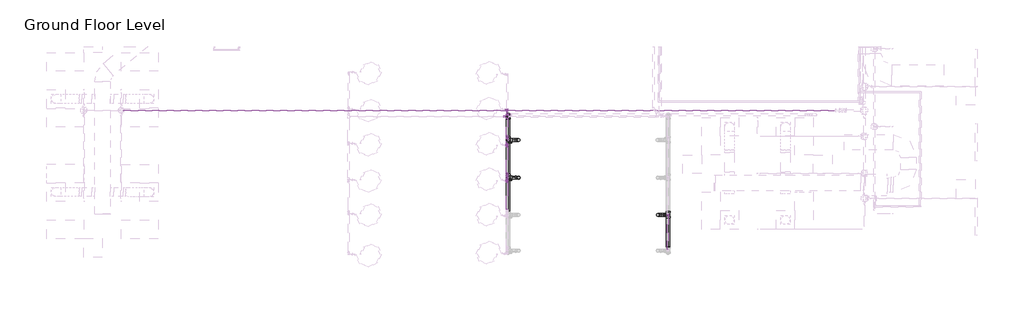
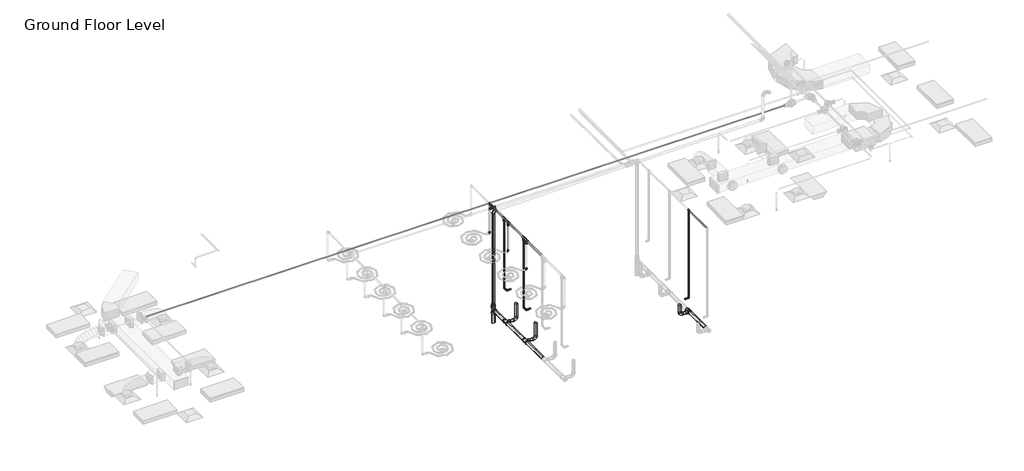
# One storey, part 5 of 74: 33 pipe segments, 30 pipe fittings.
"""IFC4 building model written with IfcOpenShell, lengths in millimetres."""

from ifc_helpers import new_model, si_unit, point, frame, frame_2d, origin, place, context, project, spatial, circle_curve, trimmed, segment, composite_curve, outline, extrude, transform, mapped, element, save
from components import m_bend_pvc_sch_40_dwv_standard_a4b99d37, m_bend_pvc_sch_40_dwv_standard_0eeb11e1, m_reducer_pvc_sch_40_dwv_standard_9996614f, m_tee_reducing_sanitary_pvc_sch_40_dwv_standard_b49161a9, m_tee_reducing_sanitary_pvc_sch_40_dwv_standard_749dcb00, standard_517a5a8d, standard_72b35c3b, standard_bbae78af, standard_a995ec02, standard_96815b99, standard_f060d3e4, standard_6bd4b727, standard_8b9c3306, standard_77f9104c, standard_50f01f79

model = new_model("IFC4")

# Units and contexts
model_context = context("Model", 3, world=origin())
ifc_project = project(units=[si_unit("LENGTHUNIT", "METRE", prefix="MILLI")], contexts=[model_context])

# Site, building, storey
site = spatial("IfcSite", under=ifc_project)
building = spatial("IfcBuilding", under=site)
storey = spatial("IfcBuildingStorey", under=building, Name="Ground Floor Level", Elevation=900.0)

# Pipe fittings
placement = place(None, origin())
m_bend_pvc_sch_40_dwv_standard_shape = m_bend_pvc_sch_40_dwv_standard_a4b99d37(model_context)
element("IfcPipeFitting", 1, ObjectType="M_Bend - PVC - Sch 40 - DWV : Standard", at=placement, inside=storey, context=model_context, shape_type="MappedRepresentation", body=[
    mapped(m_bend_pvc_sch_40_dwv_standard_shape, transform((-968.6302333, -39402.8025066, 463.1166236), x_axis=(0.0, 0.0, -1.0), y_axis=(1.0, 0.0, 0.0), z_axis=(0.0, -1.0, 0.0))),
])
element("IfcPipeFitting", 2, ObjectType="M_Bend - PVC - Sch 40 - DWV : Standard", at=placement, inside=storey, context=model_context, shape_type="MappedRepresentation", body=[
    mapped(m_bend_pvc_sch_40_dwv_standard_shape, transform((-5437.0260633, -38202.7929166, 403.2348266), x_axis=(0.0, 0.0, -1.0), y_axis=(-1.0, 0.0, 0.0), z_axis=(0.0, 1.0, 0.0))),
])
element("IfcPipeFitting", 3, ObjectType="M_Bend - PVC - Sch 40 - DWV : Standard", at=placement, inside=storey, context=model_context, shape_type="MappedRepresentation", body=[
    mapped(m_bend_pvc_sch_40_dwv_standard_shape, transform((-5437.0260633, -36991.6976494, 391.1238739), x_axis=(0.0, 0.0, -1.0), y_axis=(-1.0, 0.0, 0.0), z_axis=(0.0, 1.0, 0.0))),
])
m_bend_pvc_sch_40_dwv_standard_2_shape = m_bend_pvc_sch_40_dwv_standard_0eeb11e1(model_context)
element("IfcPipeFitting", 4, ObjectType="M_Bend - PVC - Sch 40 - DWV : Standard", at=placement, inside=storey, context=model_context, shape_type="MappedRepresentation", body=[
    mapped(m_bend_pvc_sch_40_dwv_standard_2_shape, transform((-5783.0674798, -36176.1401483, 4112.6152603), x_axis=(0.0, 0.0, 1.0), y_axis=(1.0, 0.0, 0.0), z_axis=(0.0, 1.0, 0.0))),
])
m_reducer_pvc_sch_40_dwv_standard_shape = m_reducer_pvc_sch_40_dwv_standard_9996614f(model_context)
element("IfcPipeFitting", 5, ObjectType="M_Reducer - PVC - Sch 40 - DWV : Standard", at=placement, inside=storey, context=model_context, shape_type="MappedRepresentation", body=[
    mapped(m_reducer_pvc_sch_40_dwv_standard_shape, transform((-5783.0674798, -36176.1401483, 505.0), x_axis=(0.0, 0.0, 1.0), y_axis=(0.0, 1.0, 0.0), z_axis=(-1.0, 0.0, 0.0))),
])
m_tee_reducing_sanitary_pvc_sch_40_dwv_standard_shape = m_tee_reducing_sanitary_pvc_sch_40_dwv_standard_b49161a9(model_context)
element("IfcPipeFitting", 6, ObjectType="M_Tee Reducing Sanitary - PVC - Sch 40 - DWV : Standard", at=placement, inside=storey, context=model_context, shape_type="MappedRepresentation", body=[
    mapped(m_tee_reducing_sanitary_pvc_sch_40_dwv_standard_shape, transform((-633.5600391, -39402.8010068, 463.2666086), x_axis=(0.0, -0.9999500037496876, 0.009999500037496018), y_axis=(1.0, 0.0, 0.0), z_axis=(0.0, 0.009999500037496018, 0.9999500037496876))),
])
element("IfcPipeFitting", 7, ObjectType="M_Tee Reducing Sanitary - PVC - Sch 40 - DWV : Standard", at=placement, inside=storey, context=model_context, shape_type="MappedRepresentation", body=[
    mapped(m_tee_reducing_sanitary_pvc_sch_40_dwv_standard_shape, transform((-5783.0674798, -38202.7914168, 403.3848116), x_axis=(0.0, -0.9999500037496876, 0.009999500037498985), y_axis=(-1.0000000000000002, 0.0, 0.0), z_axis=(0.0, -0.009999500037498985, -0.9999500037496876))),
])
element("IfcPipeFitting", 8, ObjectType="M_Tee Reducing Sanitary - PVC - Sch 40 - DWV : Standard", at=placement, inside=storey, context=model_context, shape_type="MappedRepresentation", body=[
    mapped(m_tee_reducing_sanitary_pvc_sch_40_dwv_standard_shape, transform((-5783.0674798, -36991.6961495, 391.2738589), x_axis=(0.0, -0.9999500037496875, 0.009999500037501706), y_axis=(-1.0, 0.0, 0.0), z_axis=(0.0, -0.009999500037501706, -0.9999500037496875))),
])
m_tee_reducing_sanitary_pvc_sch_40_dwv_standard_2_shape = m_tee_reducing_sanitary_pvc_sch_40_dwv_standard_749dcb00(model_context)
element("IfcPipeFitting", 9, ObjectType="M_Tee Reducing Sanitary - PVC - Sch 40 - DWV : Standard", at=placement, inside=storey, context=model_context, shape_type="MappedRepresentation", body=[
    mapped(m_tee_reducing_sanitary_pvc_sch_40_dwv_standard_2_shape, transform((-5783.0674798, -36176.1401483, 383.1182989), x_axis=(0.0, 0.0, 1.0), y_axis=(0.0, 1.0, 0.0), z_axis=(-1.0, 0.0, 0.0))),
])
standard_shape = standard_517a5a8d(model_context)
element("IfcPipeFitting", 10, ObjectType="M_Elbow - CPVC - Sch 40 : Standard", at=placement, inside=storey, context=model_context, shape_type="MappedRepresentation", body=[
    mapped(standard_shape, transform((-5815.4900472, -36012.7835466, 3200.0), x_axis=(0.0, 0.0, -1.0), y_axis=(-1.0, 0.0, 0.0), z_axis=(0.0, 1.0, 0.0))),
])
element("IfcPipeFitting", 11, ObjectType="M_Elbow - CPVC - Sch 40 : Standard", at=placement, inside=storey, context=model_context, shape_type="MappedRepresentation", body=[
    mapped(standard_shape, transform((-5815.4900472, -37152.7833366, 3200.0), x_axis=(1.0, 0.0, 0.0), y_axis=(0.0, 0.0, 1.0), z_axis=(0.0, -1.0, 0.0))),
])
element("IfcPipeFitting", 12, ObjectType="M_Elbow - CPVC - Sch 40 : Standard", at=placement, inside=storey, context=model_context, shape_type="MappedRepresentation", body=[
    mapped(standard_shape, transform((-5815.4900472, -38292.7833266, 3200.0), x_axis=(1.0, 0.0, 0.0), y_axis=(0.0, 0.0, 1.0), z_axis=(0.0, -1.0, 0.0))),
])
element("IfcPipeFitting", 13, ObjectType="M_Elbow - CPVC - Sch 40 : Standard", at=placement, inside=storey, context=model_context, shape_type="MappedRepresentation", body=[
    mapped(standard_shape, transform((-5815.4900472, -37065.1364156, 1655.0), x_axis=(0.0, -1.0, 0.0), y_axis=(1.0, 0.0, 0.0), z_axis=(0.0, 0.0, 1.0))),
])
element("IfcPipeFitting", 14, ObjectType="M_Elbow - CPVC - Sch 40 : Standard", at=placement, inside=storey, context=model_context, shape_type="MappedRepresentation", body=[
    mapped(standard_shape, transform((-5815.4900472, -36905.1364156, 1655.0), x_axis=(0.0, 1.0, 0.0), y_axis=(0.0, 0.0, 1.0), z_axis=(1.0, 0.0, 0.0))),
])
element("IfcPipeFitting", 15, ObjectType="M_Elbow - CPVC - Sch 40 : Standard", at=placement, inside=storey, context=model_context, shape_type="MappedRepresentation", body=[
    mapped(standard_shape, transform((-5815.4900472, -38116.2334627, 1655.0), x_axis=(0.0, 1.0, 0.0), y_axis=(0.0, 0.0, 1.0), z_axis=(1.0, 0.0, 0.0))),
])
standard_2_shape = standard_72b35c3b(model_context)
element("IfcPipeFitting", 16, ObjectType="M_Tee - CPVC - Sch 40 : Standard", at=placement, inside=storey, context=model_context, shape_type="MappedRepresentation", body=[
    mapped(standard_2_shape, transform((-639.6485359, -39402.8025066, 4300.0), x_axis=(0.0, -1.0, 0.0), y_axis=(0.0, 0.0, 1.0), z_axis=(-1.0, 0.0, 0.0))),
])
element("IfcPipeFitting", 17, ObjectType="M_Tee - CPVC - Sch 40 : Standard", at=placement, inside=storey, context=model_context, shape_type="MappedRepresentation", body=[
    mapped(standard_2_shape, transform((-5815.4900472, -36012.7835466, 4300.0), x_axis=(0.0, 1.0, 0.0), y_axis=(0.0, 0.0, 1.0), z_axis=(1.0, 0.0, 0.0))),
])
standard_3_shape = standard_bbae78af(model_context)
element("IfcPipeFitting", 18, ObjectType="M_Tee - CPVC - Sch 40 : Standard", at=placement, inside=storey, context=model_context, shape_type="MappedRepresentation", body=[
    mapped(standard_3_shape, transform((-5815.4900472, -37152.7833366, 4300.0), x_axis=(0.0, 1.0, 0.0), y_axis=(0.0, 0.0, 1.0), z_axis=(1.0, 0.0, 0.0))),
])
element("IfcPipeFitting", 19, ObjectType="M_Tee - CPVC - Sch 40 : Standard", at=placement, inside=storey, context=model_context, shape_type="MappedRepresentation", body=[
    mapped(standard_3_shape, transform((-5815.4900472, -38292.7833266, 4300.0), x_axis=(0.0, 1.0, 0.0), y_axis=(0.0, 0.0, 1.0), z_axis=(1.0, 0.0, 0.0))),
])
element("IfcPipeFitting", 20, ObjectType="M_Tee - CPVC - Sch 40 : Standard", at=placement, inside=storey, context=model_context, shape_type="MappedRepresentation", body=[
    mapped(standard_3_shape, transform((-5815.4900472, -36905.1364156, 4300.0), x_axis=(0.0, 1.0, 0.0), y_axis=(0.0, 0.0, 1.0), z_axis=(1.0, 0.0, 0.0))),
])
element("IfcPipeFitting", 21, ObjectType="M_Tee - CPVC - Sch 40 : Standard", at=placement, inside=storey, context=model_context, shape_type="MappedRepresentation", body=[
    mapped(standard_3_shape, transform((-5815.4900472, -38116.2334627, 4300.0), x_axis=(0.0, 1.0, 0.0), y_axis=(0.0, 0.0, 1.0), z_axis=(1.0, 0.0, 0.0))),
])
standard_4_shape = standard_a995ec02(model_context)
element("IfcPipeFitting", 22, ObjectType="M_Coupling Reducing - CPVC - Sch 40 : Standard", at=placement, inside=storey, context=model_context, shape_type="MappedRepresentation", body=[
    mapped(standard_4_shape, transform((-5877.4152472, -36234.6855451, 4300.0), x_axis=(-1.0, 0.0, 0.0), y_axis=(0.0, -1.0, 0.0), z_axis=(0.0, 0.0, 1.0))),
])
standard_5_shape = standard_96815b99(model_context)
element("IfcPipeFitting", 23, ObjectType="M_Elbow - CPVC - Sch 40 : Standard", at=placement, inside=storey, context=model_context, shape_type="MappedRepresentation", body=[
    mapped(standard_5_shape, transform((-639.6485359, -39402.8025066, 983.4999978), x_axis=(0.0, 0.0, -1.0), y_axis=(-1.0, 0.0, 0.0), z_axis=(0.0, 1.0, 0.0))),
])
standard_6_shape = standard_f060d3e4(model_context)
element("IfcPipeFitting", 24, ObjectType="M_Cross - CPVC - Sch 40 : Standard", at=placement, inside=storey, context=model_context, shape_type="MappedRepresentation", body=[
    mapped(standard_6_shape, transform((-5815.4900472, -36234.6855451, 4300.0), x_axis=(1.0, 0.0, 0.0), y_axis=(0.0, 1.0, 0.0), z_axis=(0.0, 0.0, 1.0))),
])
standard_7_shape = standard_6bd4b727(model_context)
element("IfcPipeFitting", 25, ObjectType="M_Coupling Reducing - CPVC - Sch 40 : Standard", at=placement, inside=storey, context=model_context, shape_type="MappedRepresentation", body=[
    mapped(standard_7_shape, transform((-5815.4900472, -36100.5614701, 4300.0), x_axis=(0.0, -1.0, 0.0), y_axis=(1.0, 0.0, 0.0), z_axis=(0.0, 0.0, 1.0))),
])
standard_8_shape = standard_8b9c3306(model_context)
element("IfcPipeFitting", 26, ObjectType="M_Coupling Reducing - CPVC - Sch 40 : Standard", at=placement, inside=storey, context=model_context, shape_type="MappedRepresentation", body=[
    mapped(standard_8_shape, transform((-5815.4900472, -37152.7833366, 4241.2498), x_axis=(0.0, 0.0, -1.0), y_axis=(-1.0, 0.0, 0.0), z_axis=(0.0, 1.0, 0.0))),
])
element("IfcPipeFitting", 27, ObjectType="M_Coupling Reducing - CPVC - Sch 40 : Standard", at=placement, inside=storey, context=model_context, shape_type="MappedRepresentation", body=[
    mapped(standard_8_shape, transform((-5815.4900472, -38292.7833266, 4241.2498), x_axis=(0.0, 0.0, -1.0), y_axis=(-1.0, 0.0, 0.0), z_axis=(0.0, 1.0, 0.0))),
])
standard_9_shape = standard_77f9104c(model_context)
element("IfcPipeFitting", 28, ObjectType="M_Coupling Reducing - CPVC - Sch 40 : Standard", at=placement, inside=storey, context=model_context, shape_type="MappedRepresentation", body=[
    mapped(standard_9_shape, transform((-5815.4900472, -36905.1364156, 4241.2498), x_axis=(0.0, 0.0, -1.0), y_axis=(0.0, -1.0, 0.0), z_axis=(-1.0, 0.0, 0.0))),
])
element("IfcPipeFitting", 29, ObjectType="M_Coupling Reducing - CPVC - Sch 40 : Standard", at=placement, inside=storey, context=model_context, shape_type="MappedRepresentation", body=[
    mapped(standard_9_shape, transform((-5815.4900472, -38116.2334627, 4241.2498), x_axis=(0.0, 0.0, -1.0), y_axis=(0.0, -1.0, 0.0), z_axis=(-1.0, 0.0, 0.0))),
])
standard_10_shape = standard_50f01f79(model_context)
element("IfcPipeFitting", 30, ObjectType="M_Elbow - CPVC - Sch 40 : Standard", at=placement, inside=storey, context=model_context, shape_type="MappedRepresentation", body=[
    mapped(standard_10_shape, transform((-5815.4900472, -38276.2334627, 1655.0), x_axis=(0.0, -1.0, 0.0), y_axis=(1.0, 0.0, 0.0), z_axis=(0.0, 0.0, 1.0))),
])

# Pipe segments
element("IfcPipeSegment", 31, ObjectType="CPVC", at=placement, inside=storey, context=model_context, shape_type="SweptSolid", body=[
    extrude(outline(composite_curve([segment(trimmed(circle_curve(frame_2d((4300.0, -639.6485359)), 16.7005), [point((4300.0, -656.3490359))], [point((4283.2995, -639.6485359))], False, "CARTESIAN"), True, "CONTINUOUS"), segment(trimmed(circle_curve(frame_2d((4300.0, -639.6485359)), 16.7005), [point((4283.2995, -639.6485359))], [point((4300.0, -622.9480359))], False, "CARTESIAN"), True, "CONTINUOUS"), segment(trimmed(circle_curve(frame_2d((4300.0, -639.6485359)), 16.7005), [point((4300.0, -622.9480359))], [point((4316.7005, -639.6485359))], False, "CARTESIAN"), True, "CONTINUOUS"), segment(trimmed(circle_curve(frame_2d((4300.0, -639.6485359)), 16.7005), [point((4316.7005, -639.6485359))], [point((4300.0, -656.3490359))], False, "CARTESIAN"), True, "CONTINUOUS")], self_intersect=False)), frame((0.0, -40511.5220966, 0.0), z_axis=(0.0, 1.0, 0.0), x_axis=(0.0, 0.0, 1.0)), (0.0, 0.0, 1.0), 1069.01939),
])
element("IfcPipeSegment", 32, ObjectType="CPVC", at=placement, inside=storey, context=model_context, shape_type="SweptSolid", body=[
    extrude(outline(composite_curve([segment(trimmed(circle_curve(frame_2d((-39402.8025066, 983.4999921)), 16.7005), [point((-39386.1020066, 983.4999921))], [point((-39402.8025066, 966.7994921))], False, "CARTESIAN"), True, "CONTINUOUS"), segment(trimmed(circle_curve(frame_2d((-39402.8025066, 983.4999921)), 16.7005), [point((-39402.8025066, 966.7994921))], [point((-39419.5030066, 983.4999921))], False, "CARTESIAN"), True, "CONTINUOUS"), segment(trimmed(circle_curve(frame_2d((-39402.8025066, 983.4999921)), 16.7005), [point((-39419.5030066, 983.4999921))], [point((-39402.8025066, 1000.2004921))], False, "CARTESIAN"), True, "CONTINUOUS"), segment(trimmed(circle_curve(frame_2d((-39402.8025066, 983.4999921)), 16.7005), [point((-39402.8025066, 1000.2004921))], [point((-39386.1020066, 983.4999921))], False, "CARTESIAN"), True, "CONTINUOUS")], self_intersect=False)), frame((-782.4615578, 0.0, 0.0), z_axis=(1.0, 0.0, 0.0), x_axis=(0.0, 1.0, 0.0)), (0.0, 0.0, 1.0), 99.5504746),
])
element("IfcPipeSegment", 33, ObjectType="CPVC", at=placement, inside=storey, context=model_context, shape_type="SweptSolid", body=[
    extrude(outline(composite_curve([segment(trimmed(circle_curve(frame_2d((-639.6485359, -39402.8025066)), 16.7005), [point((-622.9480359, -39402.8025066))], [point((-639.6485359, -39419.5030066))], False, "CARTESIAN"), True, "CONTINUOUS"), segment(trimmed(circle_curve(frame_2d((-639.6485359, -39402.8025066)), 16.7005), [point((-639.6485359, -39419.5030066))], [point((-656.3490359, -39402.8025066))], False, "CARTESIAN"), True, "CONTINUOUS"), segment(trimmed(circle_curve(frame_2d((-639.6485359, -39402.8025066)), 16.7005), [point((-656.3490359, -39402.8025066))], [point((-639.6485359, -39386.1020066))], False, "CARTESIAN"), True, "CONTINUOUS"), segment(trimmed(circle_curve(frame_2d((-639.6485359, -39402.8025066)), 16.7005), [point((-639.6485359, -39386.1020066))], [point((-622.9480359, -39402.8025066))], False, "CARTESIAN"), True, "CONTINUOUS")], self_intersect=False)), frame((0.0, 0.0, 1026.762545), z_axis=(0.0, 0.0, 1.0), x_axis=(1.0, 0.0, 0.0)), (0.0, 0.0, 1.0), 3233.537255),
])
element("IfcPipeSegment", 34, ObjectType="CPVC", at=placement, inside=storey, context=model_context, shape_type="SweptSolid", body=[
    extrude(outline(composite_curve([segment(trimmed(circle_curve(frame_2d((4300.0, -5815.4900472)), 16.7005), [point((4300.0, -5832.1905472))], [point((4283.2995, -5815.4900472))], False, "CARTESIAN"), True, "CONTINUOUS"), segment(trimmed(circle_curve(frame_2d((4300.0, -5815.4900472)), 16.7005), [point((4283.2995, -5815.4900472))], [point((4300.0, -5798.7895472))], False, "CARTESIAN"), True, "CONTINUOUS"), segment(trimmed(circle_curve(frame_2d((4300.0, -5815.4900472)), 16.7005), [point((4300.0, -5798.7895472))], [point((4316.7005, -5815.4900472))], False, "CARTESIAN"), True, "CONTINUOUS"), segment(trimmed(circle_curve(frame_2d((4300.0, -5815.4900472)), 16.7005), [point((4316.7005, -5815.4900472))], [point((4300.0, -5832.1905472))], False, "CARTESIAN"), True, "CONTINUOUS")], self_intersect=False)), frame((0.0, -36100.5614701, 0.0), z_axis=(0.0, 1.0, 0.0), x_axis=(0.0, 0.0, 1.0)), (0.0, 0.0, 1.0), 48.0777235),
])
element("IfcPipeSegment", 35, ObjectType="CPVC", at=placement, inside=storey, context=model_context, shape_type="SweptSolid", body=[
    extrude(outline(composite_curve([segment(trimmed(circle_curve(frame_2d((-36012.7835466, 3200.0)), 16.7005), [point((-35996.0830466, 3200.0))], [point((-36012.7835466, 3183.2995))], False, "CARTESIAN"), True, "CONTINUOUS"), segment(trimmed(circle_curve(frame_2d((-36012.7835466, 3200.0)), 16.7005), [point((-36012.7835466, 3183.2995))], [point((-36029.4840466, 3200.0))], False, "CARTESIAN"), True, "CONTINUOUS"), segment(trimmed(circle_curve(frame_2d((-36012.7835466, 3200.0)), 16.7005), [point((-36029.4840466, 3200.0))], [point((-36012.7835466, 3216.7005))], False, "CARTESIAN"), True, "CONTINUOUS"), segment(trimmed(circle_curve(frame_2d((-36012.7835466, 3200.0)), 16.7005), [point((-36012.7835466, 3216.7005))], [point((-35996.0830466, 3200.0))], False, "CARTESIAN"), True, "CONTINUOUS")], self_intersect=False)), frame((-5868.9493142, 0.0, 0.0), z_axis=(1.0, 0.0, 0.0), x_axis=(0.0, 1.0, 0.0)), (0.0, 0.0, 1.0), 10.1967171),
])
element("IfcPipeSegment", 36, ObjectType="CPVC", at=placement, inside=storey, context=model_context, shape_type="SweptSolid", body=[
    extrude(outline(composite_curve([segment(trimmed(circle_curve(frame_2d((-5815.4900472, -36012.7835466)), 16.7005), [point((-5798.7895472, -36012.7835466))], [point((-5815.4900472, -36029.4840466))], False, "CARTESIAN"), True, "CONTINUOUS"), segment(trimmed(circle_curve(frame_2d((-5815.4900472, -36012.7835466)), 16.7005), [point((-5815.4900472, -36029.4840466))], [point((-5832.1905472, -36012.7835466))], False, "CARTESIAN"), True, "CONTINUOUS"), segment(trimmed(circle_curve(frame_2d((-5815.4900472, -36012.7835466)), 16.7005), [point((-5832.1905472, -36012.7835466))], [point((-5815.4900472, -35996.0830466))], False, "CARTESIAN"), True, "CONTINUOUS"), segment(trimmed(circle_curve(frame_2d((-5815.4900472, -36012.7835466)), 16.7005), [point((-5815.4900472, -35996.0830466))], [point((-5798.7895472, -36012.7835466))], False, "CARTESIAN"), True, "CONTINUOUS")], self_intersect=False)), frame((0.0, 0.0, 3243.26255), z_axis=(0.0, 0.0, 1.0), x_axis=(1.0, 0.0, 0.0)), (0.0, 0.0, 1.0), 1017.03725),
])
element("IfcPipeSegment", 37, ObjectType="CPVC", at=placement, inside=storey, context=model_context, shape_type="SweptSolid", body=[
    extrude(outline(composite_curve([segment(trimmed(circle_curve(frame_2d((-37152.7833366, 3200.0)), 16.7005), [point((-37169.4838366, 3200.0))], [point((-37152.7833366, 3216.7005))], False, "CARTESIAN"), True, "CONTINUOUS"), segment(trimmed(circle_curve(frame_2d((-37152.7833366, 3200.0)), 16.7005), [point((-37152.7833366, 3216.7005))], [point((-37136.0828366, 3200.0))], False, "CARTESIAN"), True, "CONTINUOUS"), segment(trimmed(circle_curve(frame_2d((-37152.7833366, 3200.0)), 16.7005), [point((-37136.0828366, 3200.0))], [point((-37152.7833366, 3183.2995))], False, "CARTESIAN"), True, "CONTINUOUS"), segment(trimmed(circle_curve(frame_2d((-37152.7833366, 3200.0)), 16.7005), [point((-37152.7833366, 3183.2995))], [point((-37169.4838366, 3200.0))], False, "CARTESIAN"), True, "CONTINUOUS")], self_intersect=False)), frame((-5868.9493142, 0.0, 0.0), z_axis=(1.0, 0.0, 0.0), x_axis=(0.0, 1.0, 0.0)), (0.0, 0.0, 1.0), 10.1967171),
])
element("IfcPipeSegment", 38, ObjectType="CPVC", at=placement, inside=storey, context=model_context, shape_type="SweptSolid", body=[
    extrude(outline(composite_curve([segment(trimmed(circle_curve(frame_2d((-5815.4900472, -37152.7833366)), 16.7005), [point((-5832.1905472, -37152.7833366))], [point((-5815.4900472, -37136.0828366))], False, "CARTESIAN"), True, "CONTINUOUS"), segment(trimmed(circle_curve(frame_2d((-5815.4900472, -37152.7833366)), 16.7005), [point((-5815.4900472, -37136.0828366))], [point((-5798.7895472, -37152.7833366))], False, "CARTESIAN"), True, "CONTINUOUS"), segment(trimmed(circle_curve(frame_2d((-5815.4900472, -37152.7833366)), 16.7005), [point((-5798.7895472, -37152.7833366))], [point((-5815.4900472, -37169.4838366))], False, "CARTESIAN"), True, "CONTINUOUS"), segment(trimmed(circle_curve(frame_2d((-5815.4900472, -37152.7833366)), 16.7005), [point((-5815.4900472, -37169.4838366))], [point((-5832.1905472, -37152.7833366))], False, "CARTESIAN"), True, "CONTINUOUS")], self_intersect=False)), frame((0.0, 0.0, 3243.26255), z_axis=(0.0, 0.0, 1.0), x_axis=(1.0, 0.0, 0.0)), (0.0, 0.0, 1.0), 925.788375),
])
element("IfcPipeSegment", 39, ObjectType="CPVC", at=placement, inside=storey, context=model_context, shape_type="SweptSolid", body=[
    extrude(outline(composite_curve([segment(trimmed(circle_curve(frame_2d((4300.0, -5815.4900472)), 24.13), [point((4300.0, -5839.6200472))], [point((4275.87, -5815.4900472))], False, "CARTESIAN"), True, "CONTINUOUS"), segment(trimmed(circle_curve(frame_2d((4300.0, -5815.4900472)), 24.13), [point((4275.87, -5815.4900472))], [point((4300.0, -5791.3600472))], False, "CARTESIAN"), True, "CONTINUOUS"), segment(trimmed(circle_curve(frame_2d((4300.0, -5815.4900472)), 24.13), [point((4300.0, -5791.3600472))], [point((4324.13, -5815.4900472))], False, "CARTESIAN"), True, "CONTINUOUS"), segment(trimmed(circle_curve(frame_2d((4300.0, -5815.4900472)), 24.13), [point((4324.13, -5815.4900472))], [point((4300.0, -5839.6200472))], False, "CARTESIAN"), True, "CONTINUOUS")], self_intersect=False)), frame((0.0, -37094.0331366, 0.0), z_axis=(0.0, 1.0, 0.0), x_axis=(0.0, 0.0, 1.0)), (0.0, 0.0, 1.0), 130.146521),
])
element("IfcPipeSegment", 40, ObjectType="CPVC", at=placement, inside=storey, context=model_context, shape_type="SweptSolid", body=[
    extrude(outline(composite_curve([segment(trimmed(circle_curve(frame_2d((4300.0, -5815.4900472)), 24.13), [point((4300.0, -5839.6200472))], [point((4275.87, -5815.4900472))], False, "CARTESIAN"), True, "CONTINUOUS"), segment(trimmed(circle_curve(frame_2d((4300.0, -5815.4900472)), 24.13), [point((4275.87, -5815.4900472))], [point((4300.0, -5791.3600472))], False, "CARTESIAN"), True, "CONTINUOUS"), segment(trimmed(circle_curve(frame_2d((4300.0, -5815.4900472)), 24.13), [point((4300.0, -5791.3600472))], [point((4324.13, -5815.4900472))], False, "CARTESIAN"), True, "CONTINUOUS"), segment(trimmed(circle_curve(frame_2d((4300.0, -5815.4900472)), 24.13), [point((4324.13, -5815.4900472))], [point((4300.0, -5839.6200472))], False, "CARTESIAN"), True, "CONTINUOUS")], self_intersect=False)), frame((0.0, -38234.0331266, 0.0), z_axis=(0.0, 1.0, 0.0), x_axis=(0.0, 0.0, 1.0)), (0.0, 0.0, 1.0), 59.0494639),
])
element("IfcPipeSegment", 41, ObjectType="CPVC", at=placement, inside=storey, context=model_context, shape_type="SweptSolid", body=[
    extrude(outline(composite_curve([segment(trimmed(circle_curve(frame_2d((-37065.1364156, 1655.0)), 16.7005), [point((-37048.4359156, 1655.0))], [point((-37065.1364156, 1638.2995))], False, "CARTESIAN"), True, "CONTINUOUS"), segment(trimmed(circle_curve(frame_2d((-37065.1364156, 1655.0)), 16.7005), [point((-37065.1364156, 1638.2995))], [point((-37081.8369156, 1655.0))], False, "CARTESIAN"), True, "CONTINUOUS"), segment(trimmed(circle_curve(frame_2d((-37065.1364156, 1655.0)), 16.7005), [point((-37081.8369156, 1655.0))], [point((-37065.1364156, 1671.7005))], False, "CARTESIAN"), True, "CONTINUOUS"), segment(trimmed(circle_curve(frame_2d((-37065.1364156, 1655.0)), 16.7005), [point((-37065.1364156, 1671.7005))], [point((-37048.4359156, 1655.0))], False, "CARTESIAN"), True, "CONTINUOUS")], self_intersect=False)), frame((-5772.2274972, 0.0, 0.0), z_axis=(1.0, 0.0, 0.0), x_axis=(0.0, 1.0, 0.0)), (0.0, 0.0, 1.0), 101.6587367),
])
element("IfcPipeSegment", 42, ObjectType="CPVC", at=placement, inside=storey, context=model_context, shape_type="SweptSolid", body=[
    extrude(outline(composite_curve([segment(trimmed(circle_curve(frame_2d((1655.0, -5815.4900472)), 16.7005), [point((1655.0, -5798.7895472))], [point((1671.7005, -5815.4900472))], False, "CARTESIAN"), True, "CONTINUOUS"), segment(trimmed(circle_curve(frame_2d((1655.0, -5815.4900472)), 16.7005), [point((1671.7005, -5815.4900472))], [point((1655.0, -5832.1905472))], False, "CARTESIAN"), True, "CONTINUOUS"), segment(trimmed(circle_curve(frame_2d((1655.0, -5815.4900472)), 16.7005), [point((1655.0, -5832.1905472))], [point((1638.2995, -5815.4900472))], False, "CARTESIAN"), True, "CONTINUOUS"), segment(trimmed(circle_curve(frame_2d((1655.0, -5815.4900472)), 16.7005), [point((1638.2995, -5815.4900472))], [point((1655.0, -5798.7895472))], False, "CARTESIAN"), True, "CONTINUOUS")], self_intersect=False)), frame((0.0, -37021.8738656, 0.0), z_axis=(0.0, 1.0, 0.0), x_axis=(0.0, 0.0, 1.0)), (0.0, 0.0, 1.0), 73.4749),
])
element("IfcPipeSegment", 43, ObjectType="CPVC", at=placement, inside=storey, context=model_context, shape_type="SweptSolid", body=[
    extrude(outline(composite_curve([segment(trimmed(circle_curve(frame_2d((0.0, 16.7005)), 16.7005), [point((-16.7005, 16.7005))], [point((0.0, 33.401))], False, "CARTESIAN"), True, "CONTINUOUS"), segment(trimmed(circle_curve(frame_2d((0.0, 16.7005)), 16.7005), [point((0.0, 33.401))], [point((16.7005, 16.7005))], False, "CARTESIAN"), True, "CONTINUOUS"), segment(trimmed(circle_curve(frame_2d((0.0, 16.7005)), 16.7005), [point((16.7005, 16.7005))], [point((0.0, 0.0))], False, "CARTESIAN"), True, "CONTINUOUS"), segment(trimmed(circle_curve(frame_2d((0.0, 16.7005)), 16.7005), [point((0.0, 0.0))], [point((-16.7005, 16.7005))], False, "CARTESIAN"), True, "CONTINUOUS")], self_intersect=False)), frame((-5772.2272388, -38276.2329314, 1638.2995), z_axis=(0.9999999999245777, 1.2281885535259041e-05, 0.0), x_axis=(-1.2281885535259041e-05, 0.9999999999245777, 0.0)), (0.0, 0.0, 1.0), 101.6584783),
])
element("IfcPipeSegment", 44, ObjectType="CPVC", at=placement, inside=storey, context=model_context, shape_type="SweptSolid", body=[
    extrude(outline(composite_curve([segment(trimmed(circle_curve(frame_2d((1655.0, -5815.4900472)), 16.7005), [point((1655.0, -5798.7895472))], [point((1671.7005, -5815.4900472))], False, "CARTESIAN"), True, "CONTINUOUS"), segment(trimmed(circle_curve(frame_2d((1655.0, -5815.4900472)), 16.7005), [point((1671.7005, -5815.4900472))], [point((1655.0, -5832.1905472))], False, "CARTESIAN"), True, "CONTINUOUS"), segment(trimmed(circle_curve(frame_2d((1655.0, -5815.4900472)), 16.7005), [point((1655.0, -5832.1905472))], [point((1638.2995, -5815.4900472))], False, "CARTESIAN"), True, "CONTINUOUS"), segment(trimmed(circle_curve(frame_2d((1655.0, -5815.4900472)), 16.7005), [point((1638.2995, -5815.4900472))], [point((1655.0, -5798.7895472))], False, "CARTESIAN"), True, "CONTINUOUS")], self_intersect=False)), frame((0.0, -38232.9706544, 0.0), z_axis=(0.0, 1.0, 0.0), x_axis=(0.0, 0.0, 1.0)), (0.0, 0.0, 1.0), 73.4746416),
])
element("IfcPipeSegment", 45, ObjectType="CPVC", at=placement, inside=storey, context=model_context, shape_type="SweptSolid", body=[
    extrude(outline(composite_curve([segment(trimmed(circle_curve(frame_2d((-5815.4900472, -36905.1364156)), 16.7005), [point((-5798.7895472, -36905.1364156))], [point((-5815.4900472, -36921.8369156))], False, "CARTESIAN"), True, "CONTINUOUS"), segment(trimmed(circle_curve(frame_2d((-5815.4900472, -36905.1364156)), 16.7005), [point((-5815.4900472, -36921.8369156))], [point((-5832.1905472, -36905.1364156))], False, "CARTESIAN"), True, "CONTINUOUS"), segment(trimmed(circle_curve(frame_2d((-5815.4900472, -36905.1364156)), 16.7005), [point((-5832.1905472, -36905.1364156))], [point((-5815.4900472, -36888.4359156))], False, "CARTESIAN"), True, "CONTINUOUS"), segment(trimmed(circle_curve(frame_2d((-5815.4900472, -36905.1364156)), 16.7005), [point((-5815.4900472, -36888.4359156))], [point((-5798.7895472, -36905.1364156))], False, "CARTESIAN"), True, "CONTINUOUS")], self_intersect=False)), frame((0.0, 0.0, 1698.26255), z_axis=(0.0, 0.0, 1.0), x_axis=(1.0, 0.0, 0.0)), (0.0, 0.0, 1.0), 2470.788375),
])
element("IfcPipeSegment", 46, ObjectType="CPVC", at=placement, inside=storey, context=model_context, shape_type="SweptSolid", body=[
    extrude(outline(composite_curve([segment(trimmed(circle_curve(frame_2d((4300.0, -5815.4900472)), 24.13), [point((4300.0, -5839.6200472))], [point((4275.87, -5815.4900472))], False, "CARTESIAN"), True, "CONTINUOUS"), segment(trimmed(circle_curve(frame_2d((4300.0, -5815.4900472)), 24.13), [point((4275.87, -5815.4900472))], [point((4300.0, -5791.3600472))], False, "CARTESIAN"), True, "CONTINUOUS"), segment(trimmed(circle_curve(frame_2d((4300.0, -5815.4900472)), 24.13), [point((4300.0, -5791.3600472))], [point((4324.13, -5815.4900472))], False, "CARTESIAN"), True, "CONTINUOUS"), segment(trimmed(circle_curve(frame_2d((4300.0, -5815.4900472)), 24.13), [point((4324.13, -5815.4900472))], [point((4300.0, -5839.6200472))], False, "CARTESIAN"), True, "CONTINUOUS")], self_intersect=False)), frame((0.0, -36846.3862156, 0.0), z_axis=(0.0, 1.0, 0.0), x_axis=(0.0, 0.0, 1.0)), (0.0, 0.0, 1.0), 549.7754705),
])
element("IfcPipeSegment", 47, ObjectType="CPVC", at=placement, inside=storey, context=model_context, shape_type="SweptSolid", body=[
    extrude(outline(composite_curve([segment(trimmed(circle_curve(frame_2d((-5815.4900472, -38116.2334627)), 16.7005), [point((-5798.7895472, -38116.2334627))], [point((-5815.4900472, -38132.9339627))], False, "CARTESIAN"), True, "CONTINUOUS"), segment(trimmed(circle_curve(frame_2d((-5815.4900472, -38116.2334627)), 16.7005), [point((-5815.4900472, -38132.9339627))], [point((-5832.1905472, -38116.2334627))], False, "CARTESIAN"), True, "CONTINUOUS"), segment(trimmed(circle_curve(frame_2d((-5815.4900472, -38116.2334627)), 16.7005), [point((-5832.1905472, -38116.2334627))], [point((-5815.4900472, -38099.5329627))], False, "CARTESIAN"), True, "CONTINUOUS"), segment(trimmed(circle_curve(frame_2d((-5815.4900472, -38116.2334627)), 16.7005), [point((-5815.4900472, -38099.5329627))], [point((-5798.7895472, -38116.2334627))], False, "CARTESIAN"), True, "CONTINUOUS")], self_intersect=False)), frame((0.0, 0.0, 1698.26255), z_axis=(0.0, 0.0, 1.0), x_axis=(1.0, 0.0, 0.0)), (0.0, 0.0, 1.0), 2470.788375),
])
element("IfcPipeSegment", 48, ObjectType="CPVC", at=placement, inside=storey, context=model_context, shape_type="SweptSolid", body=[
    extrude(outline(composite_curve([segment(trimmed(circle_curve(frame_2d((4300.0, -5815.4900472)), 24.13), [point((4300.0, -5839.6200472))], [point((4275.87, -5815.4900472))], False, "CARTESIAN"), True, "CONTINUOUS"), segment(trimmed(circle_curve(frame_2d((4300.0, -5815.4900472)), 24.13), [point((4275.87, -5815.4900472))], [point((4300.0, -5791.3600472))], False, "CARTESIAN"), True, "CONTINUOUS"), segment(trimmed(circle_curve(frame_2d((4300.0, -5815.4900472)), 24.13), [point((4300.0, -5791.3600472))], [point((4324.13, -5815.4900472))], False, "CARTESIAN"), True, "CONTINUOUS"), segment(trimmed(circle_curve(frame_2d((4300.0, -5815.4900472)), 24.13), [point((4324.13, -5815.4900472))], [point((4300.0, -5839.6200472))], False, "CARTESIAN"), True, "CONTINUOUS")], self_intersect=False)), frame((0.0, -38057.4832627, 0.0), z_axis=(0.0, 1.0, 0.0), x_axis=(0.0, 0.0, 1.0)), (0.0, 0.0, 1.0), 845.9497261),
])
element("IfcPipeSegment", 49, ObjectType="CPVC", at=placement, inside=storey, context=model_context, shape_type="SweptSolid", body=[
    extrude(outline(composite_curve([segment(trimmed(circle_curve(frame_2d((4300.0, -5815.4900472)), 24.13), [point((4300.0, -5839.6200472))], [point((4275.87, -5815.4900472))], False, "CARTESIAN"), True, "CONTINUOUS"), segment(trimmed(circle_curve(frame_2d((4300.0, -5815.4900472)), 24.13), [point((4275.87, -5815.4900472))], [point((4300.0, -5791.3600472))], False, "CARTESIAN"), True, "CONTINUOUS"), segment(trimmed(circle_curve(frame_2d((4300.0, -5815.4900472)), 24.13), [point((4300.0, -5791.3600472))], [point((4324.13, -5815.4900472))], False, "CARTESIAN"), True, "CONTINUOUS"), segment(trimmed(circle_curve(frame_2d((4300.0, -5815.4900472)), 24.13), [point((4324.13, -5815.4900472))], [point((4300.0, -5839.6200472))], False, "CARTESIAN"), True, "CONTINUOUS")], self_intersect=False)), frame((0.0, -39217.4910728, 0.0), z_axis=(0.0, 1.0, 0.0), x_axis=(0.0, 0.0, 1.0)), (0.0, 0.0, 1.0), 865.9575462),
])
element("IfcPipeSegment", 50, ObjectType="PVC - DWV", at=placement, inside=storey, context=model_context, shape_type="SweptSolid", body=[
    extrude(outline(composite_curve([segment(trimmed(circle_curve(frame_2d((-968.6302333, -39402.8025066)), 44.45), [point((-924.1802333, -39402.8025066))], [point((-968.6302333, -39447.2525066))], False, "CARTESIAN"), True, "CONTINUOUS"), segment(trimmed(circle_curve(frame_2d((-968.6302333, -39402.8025066)), 44.45), [point((-968.6302333, -39447.2525066))], [point((-1013.0802333, -39402.8025066))], False, "CARTESIAN"), True, "CONTINUOUS"), segment(trimmed(circle_curve(frame_2d((-968.6302333, -39402.8025066)), 44.45), [point((-1013.0802333, -39402.8025066))], [point((-968.6302333, -39358.3525066))], False, "CARTESIAN"), True, "CONTINUOUS"), segment(trimmed(circle_curve(frame_2d((-968.6302333, -39402.8025066)), 44.45), [point((-968.6302333, -39358.3525066))], [point((-924.1802333, -39402.8025066))], False, "CARTESIAN"), True, "CONTINUOUS")], self_intersect=False)), frame((0.0, 0.0, 579.0168236), z_axis=(0.0, 0.0, 1.0), x_axis=(1.0, 0.0, 0.0)), (0.0, 0.0, 1.0), 251.651553),
])
element("IfcPipeSegment", 51, ObjectType="PVC - DWV", at=placement, inside=storey, context=model_context, shape_type="SweptSolid", body=[
    extrude(outline(composite_curve([segment(trimmed(circle_curve(frame_2d((-39402.8010068, 463.2666086)), 44.45), [point((-39447.2510068, 463.2666086))], [point((-39402.8010068, 507.7166086))], False, "CARTESIAN"), True, "CONTINUOUS"), segment(trimmed(circle_curve(frame_2d((-39402.8010068, 463.2666086)), 44.45), [point((-39402.8010068, 507.7166086))], [point((-39358.3510068, 463.2666086))], False, "CARTESIAN"), True, "CONTINUOUS"), segment(trimmed(circle_curve(frame_2d((-39402.8010068, 463.2666086)), 44.45), [point((-39358.3510068, 463.2666086))], [point((-39402.8010068, 418.8166086))], False, "CARTESIAN"), True, "CONTINUOUS"), segment(trimmed(circle_curve(frame_2d((-39402.8010068, 463.2666086)), 44.45), [point((-39402.8010068, 418.8166086))], [point((-39447.2510068, 463.2666086))], False, "CARTESIAN"), True, "CONTINUOUS")], self_intersect=False)), frame((-852.7300333, 0.0, 0.0), z_axis=(1.0, 0.0, 0.0), x_axis=(0.0, 1.0, 0.0)), (0.0, 0.0, 1.0), 90.5697942),
])
element("IfcPipeSegment", 52, ObjectType="PVC - DWV", at=placement, inside=storey, context=model_context, shape_type="SweptSolid", body=[
    extrude(outline(composite_curve([segment(trimmed(circle_curve(frame_2d((0.0, -57.1500001)), 57.15), [point((57.15, -57.1500001))], [point((0.0, -114.3000001))], False, "CARTESIAN"), True, "CONTINUOUS"), segment(trimmed(circle_curve(frame_2d((0.0, -57.1500001)), 57.15), [point((0.0, -114.3000001))], [point((-57.15, -57.1500001))], False, "CARTESIAN"), True, "CONTINUOUS"), segment(trimmed(circle_curve(frame_2d((0.0, -57.1500001)), 57.15), [point((-57.15, -57.1500001))], [point((0.0, 0.0))], False, "CARTESIAN"), True, "CONTINUOUS"), segment(trimmed(circle_curve(frame_2d((0.0, -57.1500001)), 57.15), [point((0.0, 0.0))], [point((57.15, -57.1500001))], False, "CARTESIAN"), True, "CONTINUOUS")], self_intersect=False)), frame((-633.5600391, -39491.1250907, 521.3027069), z_axis=(0.0, -0.9999500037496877, 0.009999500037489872), x_axis=(1.0, 0.0, 0.0)), (0.0, 0.0, 1.0), 942.4897377),
])
element("IfcPipeSegment", 53, ObjectType="PVC - DWV", at=placement, inside=storey, context=model_context, shape_type="SweptSolid", body=[
    extrude(outline(composite_curve([segment(trimmed(circle_curve(frame_2d((-5437.0260633, -38202.7929166)), 44.45), [point((-5392.5760633, -38202.7929166))], [point((-5437.0260633, -38247.2429166))], False, "CARTESIAN"), True, "CONTINUOUS"), segment(trimmed(circle_curve(frame_2d((-5437.0260633, -38202.7929166)), 44.45), [point((-5437.0260633, -38247.2429166))], [point((-5481.4760633, -38202.7929166))], False, "CARTESIAN"), True, "CONTINUOUS"), segment(trimmed(circle_curve(frame_2d((-5437.0260633, -38202.7929166)), 44.45), [point((-5481.4760633, -38202.7929166))], [point((-5437.0260633, -38158.3429166))], False, "CARTESIAN"), True, "CONTINUOUS"), segment(trimmed(circle_curve(frame_2d((-5437.0260633, -38202.7929166)), 44.45), [point((-5437.0260633, -38158.3429166))], [point((-5392.5760633, -38202.7929166))], False, "CARTESIAN"), True, "CONTINUOUS")], self_intersect=False)), frame((0.0, 0.0, 519.1350266), z_axis=(0.0, 0.0, 1.0), x_axis=(1.0, 0.0, 0.0)), (0.0, 0.0, 1.0), 470.8649734),
])
element("IfcPipeSegment", 54, ObjectType="PVC - DWV", at=placement, inside=storey, context=model_context, shape_type="SweptSolid", body=[
    extrude(outline(composite_curve([segment(trimmed(circle_curve(frame_2d((-38202.7914168, 403.3848116)), 44.45), [point((-38158.3414168, 403.3848116))], [point((-38202.7914168, 358.9348116))], False, "CARTESIAN"), True, "CONTINUOUS"), segment(trimmed(circle_curve(frame_2d((-38202.7914168, 403.3848116)), 44.45), [point((-38202.7914168, 358.9348116))], [point((-38247.2414168, 403.3848116))], False, "CARTESIAN"), True, "CONTINUOUS"), segment(trimmed(circle_curve(frame_2d((-38202.7914168, 403.3848116)), 44.45), [point((-38247.2414168, 403.3848116))], [point((-38202.7914168, 447.8348116))], False, "CARTESIAN"), True, "CONTINUOUS"), segment(trimmed(circle_curve(frame_2d((-38202.7914168, 403.3848116)), 44.45), [point((-38202.7914168, 447.8348116))], [point((-38158.3414168, 403.3848116))], False, "CARTESIAN"), True, "CONTINUOUS")], self_intersect=False)), frame((-5654.4672798, 0.0, 0.0), z_axis=(1.0, 0.0, 0.0), x_axis=(0.0, 1.0, 0.0)), (0.0, 0.0, 1.0), 101.5410165),
])
element("IfcPipeSegment", 55, ObjectType="PVC - DWV", at=placement, inside=storey, context=model_context, shape_type="SweptSolid", body=[
    extrude(outline(composite_curve([segment(trimmed(circle_curve(frame_2d((0.0, -57.15)), 57.15), [point((57.15, -57.15))], [point((0.0, -114.3000001))], False, "CARTESIAN"), True, "CONTINUOUS"), segment(trimmed(circle_curve(frame_2d((0.0, -57.15)), 57.15), [point((0.0, -114.3000001))], [point((-57.15, -57.15))], False, "CARTESIAN"), True, "CONTINUOUS"), segment(trimmed(circle_curve(frame_2d((0.0, -57.15)), 57.15), [point((-57.15, -57.15))], [point((0.0, 0.0))], False, "CARTESIAN"), True, "CONTINUOUS"), segment(trimmed(circle_curve(frame_2d((0.0, -57.15)), 57.15), [point((0.0, 0.0))], [point((57.15, -57.15))], False, "CARTESIAN"), True, "CONTINUOUS")], self_intersect=False)), frame((-5783.0674798, -38291.1155007, 461.4209099), z_axis=(0.0, -0.9999500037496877, 0.009999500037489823), x_axis=(1.0, 0.0, 0.0)), (0.0, 0.0, 1.0), 990.519589),
])
element("IfcPipeSegment", 56, ObjectType="PVC - DWV", at=placement, inside=storey, context=model_context, shape_type="SweptSolid", body=[
    extrude(outline(composite_curve([segment(trimmed(circle_curve(frame_2d((-5437.0260633, -36991.6976494)), 44.45), [point((-5392.5760633, -36991.6976494))], [point((-5437.0260633, -37036.1476494))], False, "CARTESIAN"), True, "CONTINUOUS"), segment(trimmed(circle_curve(frame_2d((-5437.0260633, -36991.6976494)), 44.45), [point((-5437.0260633, -37036.1476494))], [point((-5481.4760633, -36991.6976494))], False, "CARTESIAN"), True, "CONTINUOUS"), segment(trimmed(circle_curve(frame_2d((-5437.0260633, -36991.6976494)), 44.45), [point((-5481.4760633, -36991.6976494))], [point((-5437.0260633, -36947.2476494))], False, "CARTESIAN"), True, "CONTINUOUS"), segment(trimmed(circle_curve(frame_2d((-5437.0260633, -36991.6976494)), 44.45), [point((-5437.0260633, -36947.2476494))], [point((-5392.5760633, -36991.6976494))], False, "CARTESIAN"), True, "CONTINUOUS")], self_intersect=False)), frame((0.0, 0.0, 507.0240739), z_axis=(0.0, 0.0, 1.0), x_axis=(1.0, 0.0, 0.0)), (0.0, 0.0, 1.0), 482.9759261),
])
element("IfcPipeSegment", 57, ObjectType="PVC - DWV", at=placement, inside=storey, context=model_context, shape_type="SweptSolid", body=[
    extrude(outline(composite_curve([segment(trimmed(circle_curve(frame_2d((-36991.6961495, 391.2738589)), 44.45), [point((-36947.2461495, 391.2738589))], [point((-36991.6961495, 346.8238589))], False, "CARTESIAN"), True, "CONTINUOUS"), segment(trimmed(circle_curve(frame_2d((-36991.6961495, 391.2738589)), 44.45), [point((-36991.6961495, 346.8238589))], [point((-37036.1461495, 391.2738589))], False, "CARTESIAN"), True, "CONTINUOUS"), segment(trimmed(circle_curve(frame_2d((-36991.6961495, 391.2738589)), 44.45), [point((-37036.1461495, 391.2738589))], [point((-36991.6961495, 435.7238589))], False, "CARTESIAN"), True, "CONTINUOUS"), segment(trimmed(circle_curve(frame_2d((-36991.6961495, 391.2738589)), 44.45), [point((-36991.6961495, 435.7238589))], [point((-36947.2461495, 391.2738589))], False, "CARTESIAN"), True, "CONTINUOUS")], self_intersect=False)), frame((-5654.4672798, 0.0, 0.0), z_axis=(1.0, 0.0, 0.0), x_axis=(0.0, 1.0, 0.0)), (0.0, 0.0, 1.0), 101.5410165),
])
element("IfcPipeSegment", 58, ObjectType="PVC - DWV", at=placement, inside=storey, context=model_context, shape_type="SweptSolid", body=[
    extrude(outline(composite_curve([segment(trimmed(circle_curve(frame_2d((0.0, -57.15)), 57.15), [point((57.15, -57.15))], [point((0.0, -114.3))], False, "CARTESIAN"), True, "CONTINUOUS"), segment(trimmed(circle_curve(frame_2d((0.0, -57.15)), 57.15), [point((0.0, -114.3))], [point((-57.15, -57.15))], False, "CARTESIAN"), True, "CONTINUOUS"), segment(trimmed(circle_curve(frame_2d((0.0, -57.15)), 57.15), [point((-57.15, -57.15))], [point((0.0, 0.0))], False, "CARTESIAN"), True, "CONTINUOUS"), segment(trimmed(circle_curve(frame_2d((0.0, -57.15)), 57.15), [point((0.0, 0.0))], [point((57.15, -57.15))], False, "CARTESIAN"), True, "CONTINUOUS")], self_intersect=False)), frame((-5783.0674798, -36316.3592938, 441.6733478), z_axis=(0.0, -0.9999500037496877, 0.009999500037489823), x_axis=(1.0, 0.0, 0.0)), (0.0, 0.0, 1.0), 554.1491218),
])
element("IfcPipeSegment", 59, ObjectType="PVC - DWV", at=placement, inside=storey, context=model_context, shape_type="SweptSolid", body=[
    extrude(outline(composite_curve([segment(trimmed(circle_curve(frame_2d((0.0, -57.15)), 57.15), [point((57.15, -57.15))], [point((0.0, -114.3))], False, "CARTESIAN"), True, "CONTINUOUS"), segment(trimmed(circle_curve(frame_2d((0.0, -57.15)), 57.15), [point((0.0, -114.3))], [point((-57.15, -57.15))], False, "CARTESIAN"), True, "CONTINUOUS"), segment(trimmed(circle_curve(frame_2d((0.0, -57.15)), 57.15), [point((-57.15, -57.15))], [point((0.0, 0.0))], False, "CARTESIAN"), True, "CONTINUOUS"), segment(trimmed(circle_curve(frame_2d((0.0, -57.15)), 57.15), [point((0.0, 0.0))], [point((57.15, -57.15))], False, "CARTESIAN"), True, "CONTINUOUS")], self_intersect=False)), frame((-5783.0674798, -37080.0202334, 449.3099572), z_axis=(0.0, -0.9999500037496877, 0.009999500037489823), x_axis=(1.0, 0.0, 0.0)), (0.0, 0.0, 1.0), 1001.6058205),
])
element("IfcPipeSegment", 60, ObjectType="PVC - DWV", at=placement, inside=storey, context=model_context, shape_type="SweptSolid", body=[
    extrude(outline(composite_curve([segment(trimmed(circle_curve(frame_2d((-5783.0674798, -36176.1401483)), 57.15), [point((-5725.9174798, -36176.1401483))], [point((-5783.0674798, -36233.2901483))], False, "CARTESIAN"), True, "CONTINUOUS"), segment(trimmed(circle_curve(frame_2d((-5783.0674798, -36176.1401483)), 57.15), [point((-5783.0674798, -36233.2901483))], [point((-5840.2174798, -36176.1401483))], False, "CARTESIAN"), True, "CONTINUOUS"), segment(trimmed(circle_curve(frame_2d((-5783.0674798, -36176.1401483)), 57.15), [point((-5840.2174798, -36176.1401483))], [point((-5783.0674798, -36118.9901483))], False, "CARTESIAN"), True, "CONTINUOUS"), segment(trimmed(circle_curve(frame_2d((-5783.0674798, -36176.1401483)), 57.15), [point((-5783.0674798, -36118.9901483))], [point((-5725.9174798, -36176.1401483))], False, "CARTESIAN"), True, "CONTINUOUS")], self_intersect=False)), frame((0.0, 0.0, -100.0), z_axis=(0.0, 0.0, 1.0), x_axis=(1.0, 0.0, 0.0)), (0.0, 0.0, 1.0), 345.2083927),
])
element("IfcPipeSegment", 61, ObjectType="PVC - DWV", at=placement, inside=storey, context=model_context, shape_type="SweptSolid", body=[
    extrude(outline(composite_curve([segment(trimmed(circle_curve(frame_2d((-5783.0674798, -36176.1401483)), 57.15), [point((-5840.2174798, -36176.1401483))], [point((-5783.0674798, -36118.9901483))], False, "CARTESIAN"), True, "CONTINUOUS"), segment(trimmed(circle_curve(frame_2d((-5783.0674798, -36176.1401483)), 57.15), [point((-5783.0674798, -36118.9901483))], [point((-5725.9174798, -36176.1401483))], False, "CARTESIAN"), True, "CONTINUOUS"), segment(trimmed(circle_curve(frame_2d((-5783.0674798, -36176.1401483)), 57.15), [point((-5725.9174798, -36176.1401483))], [point((-5783.0674798, -36233.2901483))], False, "CARTESIAN"), True, "CONTINUOUS"), segment(trimmed(circle_curve(frame_2d((-5783.0674798, -36176.1401483)), 57.15), [point((-5783.0674798, -36233.2901483))], [point((-5840.2174798, -36176.1401483))], False, "CARTESIAN"), True, "CONTINUOUS")], self_intersect=False)), frame((0.0, 0.0, 492.2825399), z_axis=(0.0, 0.0, 1.0), x_axis=(1.0, 0.0, 0.0)), (0.0, 0.0, 1.0), 12.7174601),
])
element("IfcPipeSegment", 62, ObjectType="PVC - DWV", at=placement, inside=storey, context=model_context, shape_type="SweptSolid", body=[
    extrude(outline(composite_curve([segment(trimmed(circle_curve(frame_2d((-5783.0674798, -36176.1401483)), 36.5125), [point((-5819.5799798, -36176.1401483))], [point((-5783.0674798, -36139.6276483))], False, "CARTESIAN"), True, "CONTINUOUS"), segment(trimmed(circle_curve(frame_2d((-5783.0674798, -36176.1401483)), 36.5125), [point((-5783.0674798, -36139.6276483))], [point((-5746.5549798, -36176.1401483))], False, "CARTESIAN"), True, "CONTINUOUS"), segment(trimmed(circle_curve(frame_2d((-5783.0674798, -36176.1401483)), 36.5125), [point((-5746.5549798, -36176.1401483))], [point((-5783.0674798, -36212.6526483))], False, "CARTESIAN"), True, "CONTINUOUS"), segment(trimmed(circle_curve(frame_2d((-5783.0674798, -36176.1401483)), 36.5125), [point((-5783.0674798, -36212.6526483))], [point((-5819.5799798, -36176.1401483))], False, "CARTESIAN"), True, "CONTINUOUS")], self_intersect=False)), frame((0.0, 0.0, 608.9460938), z_axis=(0.0, 0.0, 1.0), x_axis=(1.0, 0.0, 0.0)), (0.0, 0.0, 1.0), 3404.655104),
])
element("IfcPipeSegment", 63, ObjectType="Steel flanged", at=placement, inside=storey, context=model_context, shape_type="SweptSolid", body=[
    extrude(outline(composite_curve([segment(trimmed(circle_curve(frame_2d((-36033.7985971, 4347.5)), 16.7005), [point((-36017.0980971, 4347.5))], [point((-36033.7985971, 4330.7995))], False, "CARTESIAN"), True, "CONTINUOUS"), segment(trimmed(circle_curve(frame_2d((-36033.7985971, 4347.5)), 16.7005), [point((-36033.7985971, 4330.7995))], [point((-36050.4990971, 4347.5))], False, "CARTESIAN"), True, "CONTINUOUS"), segment(trimmed(circle_curve(frame_2d((-36033.7985971, 4347.5)), 16.7005), [point((-36050.4990971, 4347.5))], [point((-36033.7985971, 4364.2005))], False, "CARTESIAN"), True, "CONTINUOUS"), segment(trimmed(circle_curve(frame_2d((-36033.7985971, 4347.5)), 16.7005), [point((-36033.7985971, 4364.2005))], [point((-36017.0980971, 4347.5))], False, "CARTESIAN"), True, "CONTINUOUS")], self_intersect=False)), frame((-18148.2327605, 0.0, 0.0), z_axis=(1.0, 0.0, 0.0), x_axis=(0.0, 1.0, 0.0)), (0.0, 0.0, 1.0), 22891.8502499),
])

save(model, "model.ifc")
